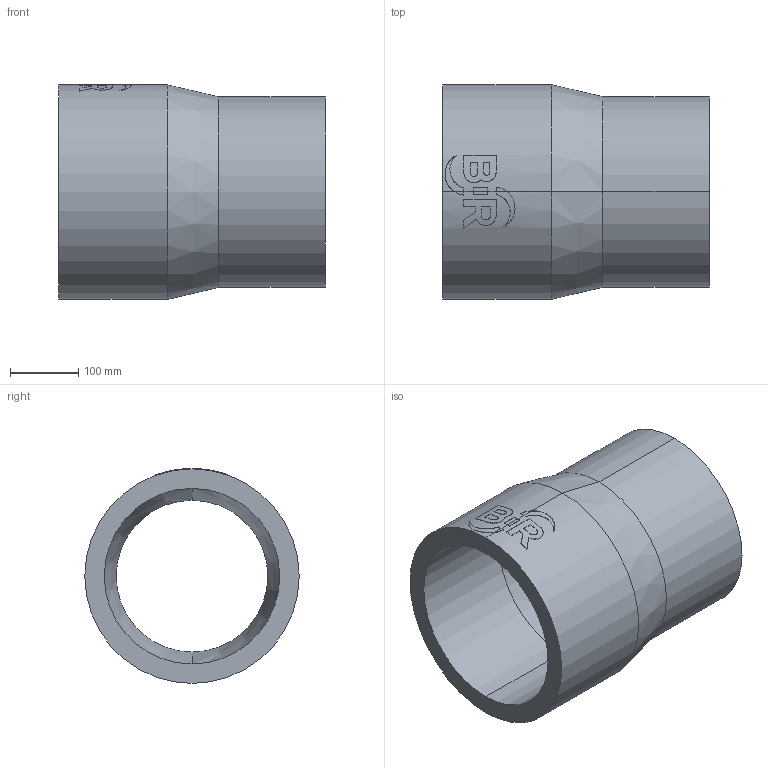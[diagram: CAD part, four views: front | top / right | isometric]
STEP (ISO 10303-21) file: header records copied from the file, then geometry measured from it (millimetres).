
FILE_DESCRIPTION (( 'STEP AP214' ), '1' );
FILE_NAME ('2323232215.STEP', '2018-07-20T10:49:23', ( '' ), ( '' ), 'SwSTEP 2.0', 'SolidWorks 2017', '' );
FILE_SCHEMA (( 'AUTOMOTIVE_DESIGN' ));
Length unit declared in the file: millimetre
Products named in the file (1): 2323232215
Bounding box: 392 x 315 x 315.46 mm (x, y, z)
Volume: 9520978.3 mm3; surface area: 714424.3 mm2
Topology: 1 solids, 1 shells, 63 faces, 160 edges, 104 vertices
Faces by surface type: cylinder 31, plane 28, cone 4
Entity records: 3418 total; most frequent: CARTESIAN_POINT 1209, ORIENTED_EDGE 320, DIRECTION 296, EDGE_CURVE 160, AXIS2_PLACEMENT_3D 112, VERTEX_POINT 104, LINE 72, VECTOR 72
